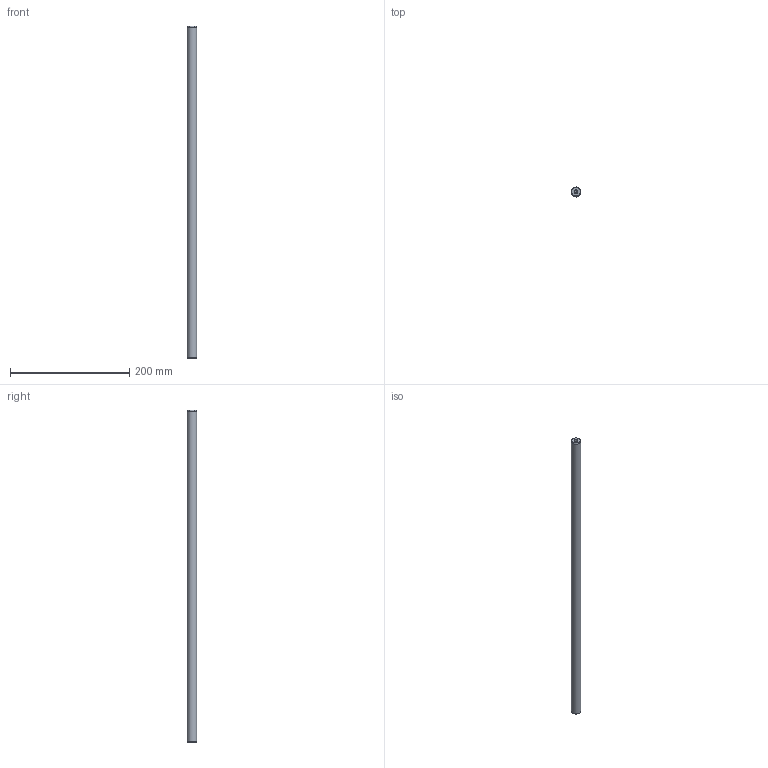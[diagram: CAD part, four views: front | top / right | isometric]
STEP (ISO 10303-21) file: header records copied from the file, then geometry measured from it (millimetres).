
FILE_DESCRIPTION( ( 'STEP AP214' ), '1' );
FILE_NAME( 'U:/Etudes/Top Solid/BIBLIO 3D AVM/STEP/PNEUMATIQUE/GUIDAGES/Accessoires/Colonnes/Ø16x557.step', '2005-05-04T12:48:12', ( ' ' ), ( ' ' ), 'XStep 1.0', ' ', ' ' );
FILE_SCHEMA( ( 'automotive_design' ) );
Length unit declared in the file: metre
Products named in the file (1): 1
Bounding box: 16 x 16 x 557 mm (x, y, z)
Volume: 111335.1 mm3; surface area: 28829.9 mm2
Topology: 1 solids, 1 shells, 13 faces, 27 edges, 16 vertices
Faces by surface type: cone 6, cylinder 5, plane 2
Full cylindrical faces by diameter (mm): 4.918 x4, 16 x1
Entity records: 382 total; most frequent: DIRECTION 52, CARTESIAN_POINT 40, AXIS2_PLACEMENT_3D 26, EDGE_LOOP 24, ORIENTED_EDGE 24, FACE_OUTER_BOUND 18, VERTEX_POINT 14, STYLED_ITEM 13
